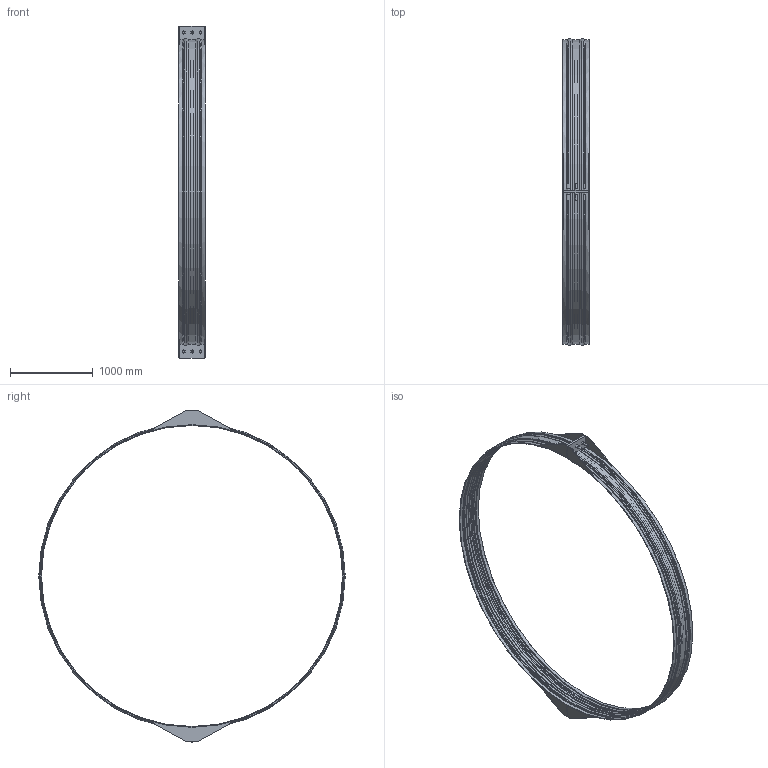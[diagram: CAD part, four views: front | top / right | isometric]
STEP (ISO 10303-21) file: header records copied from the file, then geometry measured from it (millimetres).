
FILE_DESCRIPTION(/* description */ ('VIC RESTRAINED COUPLING STYLE 233 (FLEX) (BRD)','CAx-IF Rec.Pracs.---Representation and Presentation of Product Manufacturing Information (PMI)---4.0---2014-10-13'),/* implementation_level */ '2;1');
FILE_NAME(/* name */ 'C:\Users\Vjadhav\Desktop\CAD for Inventor\Test for STEP\Vivek\Adsk_Inventor_Bolted Sleeve_iParts\STEP\Victaulic_VBSP_Coupling Flexible Restrained_Style 233 (BRD)\Victaulic_VBSP_Coupling Flexible Restrained_Style 233 (BRD)_50psi_144 (3600).stp',/* time_stamp */ '2020-09-24T12:32:15+05:00',/* author */ ('Vjadhav'),/* organization */ ('Victaulic'),/* preprocessor_version */ 'ST-DEVELOPER v17.2',/* originating_system */ 'Autodesk Inventor 2019',/* authorisation */ '');
FILE_SCHEMA (('AP242_MANAGED_MODEL_BASED_3D_ENGINEERING_MIM_LF { 1 0 10303 442 1 1 4 }'));
Length unit declared in the file: inch
Products named in the file (1): Style_233_Type_2_50psi-144.0
Bounding box: 317.5 x 3703.28 x 4013.2 mm (x, y, z)
Volume: 44312809 mm3; surface area: 8970319.6 mm2
Topology: 1 solids, 1 shells, 203 faces, 541 edges, 366 vertices
Faces by surface type: plane 134, cylinder 39, torus 18, cone 12
Full cylindrical faces by diameter (mm): 22.225 x12, 3638.55 x1, 3657.6 x2, 3663.95 x2
Entity records: 6848 total; most frequent: CARTESIAN_POINT 1320, DIRECTION 1095, ORIENTED_EDGE 1082, EDGE_CURVE 541, LINE 373, VECTOR 373, VERTEX_POINT 366, AXIS2_PLACEMENT_3D 361
